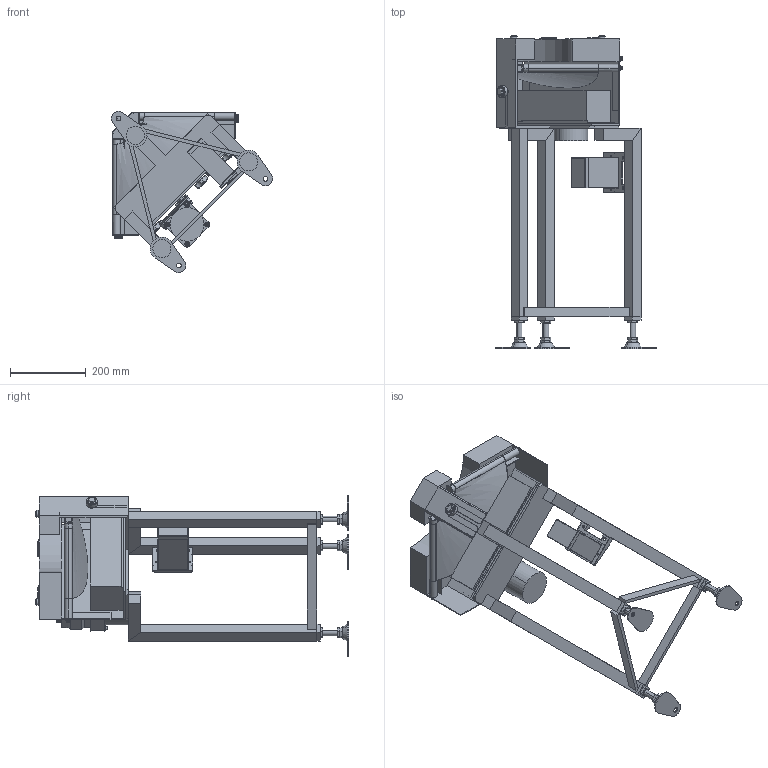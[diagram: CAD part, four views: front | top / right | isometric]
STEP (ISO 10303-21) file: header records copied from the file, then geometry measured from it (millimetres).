
FILE_DESCRIPTION (( 'STEP AP214' ), '1' );
FILE_NAME ('GBC90-HS100-IV-L.STEP', '2024-01-18T00:09:57', ( '' ), ( '' ), 'SwSTEP 2.0', 'SolidWorks 2017', '' );
FILE_SCHEMA (( 'AUTOMOTIVE_DESIGN' ));
Length unit declared in the file: millimetre
Products named in the file (1): GBC90-HS100-IV-L
Bounding box: 426.08 x 827.92 x 426.08 mm (x, y, z)
Volume: 10858540.3 mm3; surface area: 1595743.3 mm2
Topology: 76 solids, 76 shells, 1506 faces, 3432 edges, 2144 vertices
Faces by surface type: plane 809, cylinder 407, cone 163, bspline 65, torus 48, sphere 14
Entity records: 50814 total; most frequent: CARTESIAN_POINT 16126, DIRECTION 7094, ORIENTED_EDGE 6784, EDGE_CURVE 3392, AXIS2_PLACEMENT_3D 2588, VERTEX_POINT 2144, LINE 1918, VECTOR 1918
